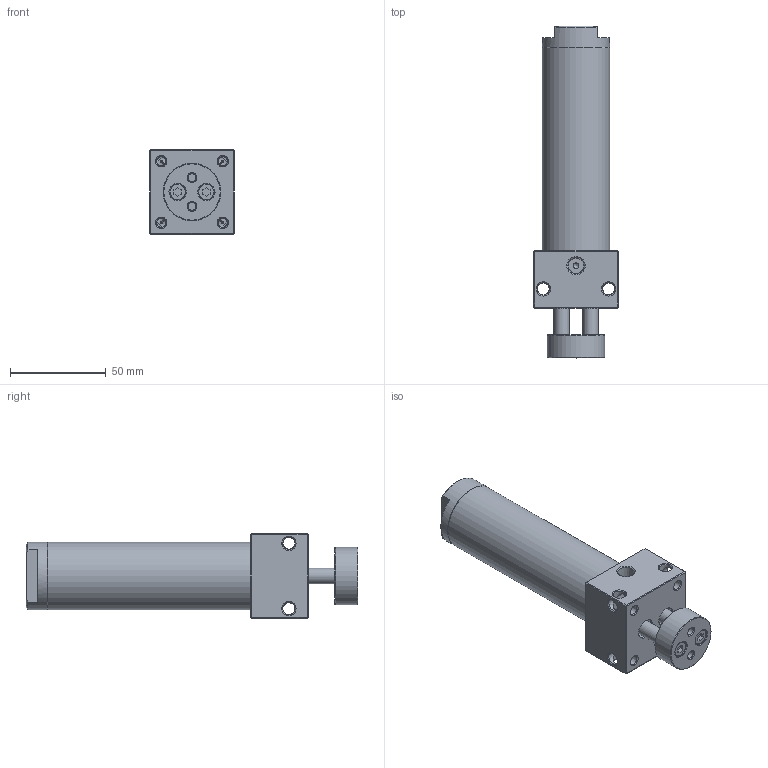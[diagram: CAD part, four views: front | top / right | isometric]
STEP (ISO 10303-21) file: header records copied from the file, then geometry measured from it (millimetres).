
FILE_DESCRIPTION((''),'2;1');
FILE_NAME('I:\3D電子目錄\氣缸\DBT\DBT\DBT30\DBT30x50.stp','2007-10-08T08:58:42',('Administrator'),(''),'Autodesk Inventor 2008','Autodesk Inventor 2008','');
FILE_SCHEMA(('AUTOMOTIVE_DESIGN { 1 0 10303 214 1 1 1 1 }'));
Length unit declared in the file: millimetre
Products named in the file (1): DBT30x50
Bounding box: 44 x 173 x 44 mm (x, y, z)
Volume: 107604.8 mm3; surface area: 48677 mm2
Topology: 5 solids, 5 shells, 167 faces, 388 edges, 234 vertices
Faces by surface type: plane 56, bspline 53, cone 37, cylinder 21
Full cylindrical faces by diameter (mm): 4.3 x1, 5 x1, 8 x3, 8.5 x1, 10 x1, 11 x1, 18 x1, 28.8 x2, 30 x2, 30.8 x2, 32 x2, 32.2 x2, 35 x2
Entity records: 5064 total; most frequent: CARTESIAN_POINT 1888, DIRECTION 604, ORIENTED_EDGE 538, EDGE_LOOP 298, EDGE_CURVE 269, AXIS2_PLACEMENT_3D 256, VERTEX_POINT 207, FACE_OUTER_BOUND 167
